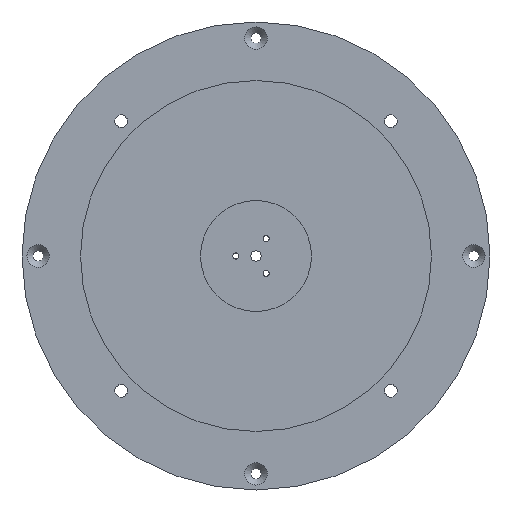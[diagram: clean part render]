
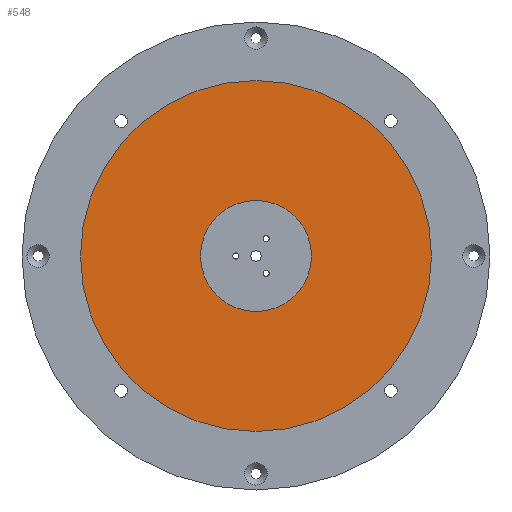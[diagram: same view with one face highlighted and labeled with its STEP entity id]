
A CAD part, front view. The second image highlights one B-rep face of the part: STEP entity #548.
In plain terms, the highlighted planar face has unit normal (0, -1, 0).
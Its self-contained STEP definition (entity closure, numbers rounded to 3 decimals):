
#36=FACE_BOUND('',#142,.T.);
#43=PLANE('',#637);
#88=FACE_OUTER_BOUND('',#141,.T.);
#141=EDGE_LOOP('',(#496));
#142=EDGE_LOOP('',(#497));
#245=CIRCLE('',#634,27.5);
#246=CIRCLE('',#636,87.);
#288=VERTEX_POINT('',#957);
#289=VERTEX_POINT('',#961);
#358=EDGE_CURVE('',#288,#288,#245,.T.);
#360=EDGE_CURVE('',#289,#289,#246,.T.);
#496=ORIENTED_EDGE('',*,*,#360,.F.);
#497=ORIENTED_EDGE('',*,*,#358,.F.);
#548=ADVANCED_FACE('',(#88,#36),#43,.T.);
#634=AXIS2_PLACEMENT_3D('',#959,#808,#809);
#636=AXIS2_PLACEMENT_3D('',#963,#813,#814);
#637=AXIS2_PLACEMENT_3D('',#964,#815,#816);
#808=DIRECTION('center_axis',(0.,-1.,0.));
#809=DIRECTION('ref_axis',(1.,0.,0.));
#813=DIRECTION('center_axis',(0.,1.,0.));
#814=DIRECTION('ref_axis',(1.,0.,0.));
#815=DIRECTION('center_axis',(0.,-1.,0.));
#816=DIRECTION('ref_axis',(1.,0.,0.));
#957=CARTESIAN_POINT('',(-27.5,26.,0.));
#959=CARTESIAN_POINT('Origin',(0.,26.,0.));
#961=CARTESIAN_POINT('',(-87.,26.,0.));
#963=CARTESIAN_POINT('Origin',(0.,26.,0.));
#964=CARTESIAN_POINT('Origin',(0.,26.,0.));
